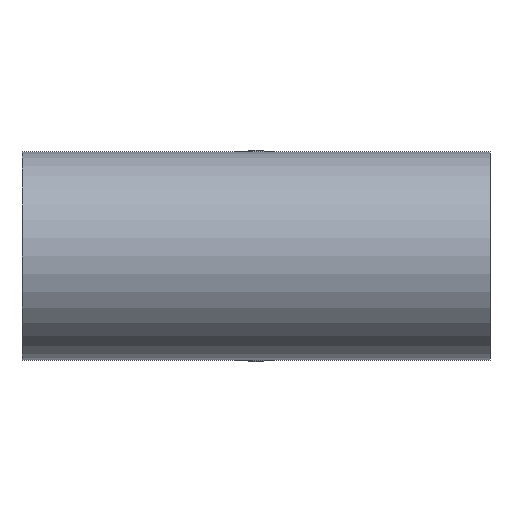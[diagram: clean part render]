
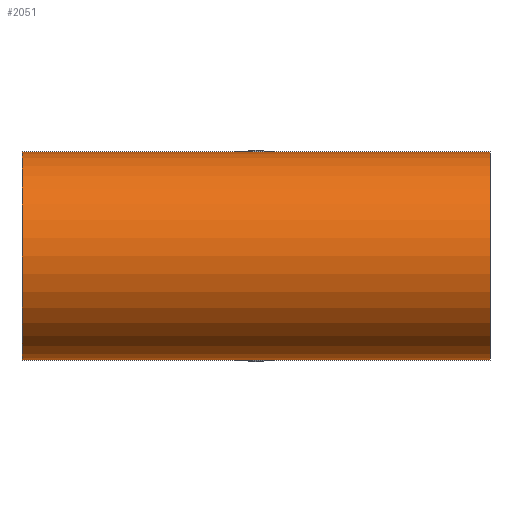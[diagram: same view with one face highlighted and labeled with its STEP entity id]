
A CAD part, front view. The second image highlights one B-rep face of the part: STEP entity #2051.
In plain terms, the highlighted cylindrical face has radius 38.1 mm (diameter 76.2 mm), a partial arc.
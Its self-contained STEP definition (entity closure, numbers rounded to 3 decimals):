
#30 = CARTESIAN_POINT ( 'NONE',  ( -85.7, 0., 38.1 ) ) ;
#140 = ORIENTED_EDGE ( 'NONE', *, *, #1937, .T. ) ;
#238 = CARTESIAN_POINT ( 'NONE',  ( -85.7, 0., 38.1 ) ) ;
#423 = CARTESIAN_POINT ( 'NONE',  ( 85.7, 0., 38.1 ) ) ;
#534 = VECTOR ( 'NONE', #832, 1000. ) ;
#537 = VECTOR ( 'NONE', #1488, 1000. ) ;
#599 = AXIS2_PLACEMENT_3D ( 'NONE', #1288, #995, #989 ) ;
#604 = ORIENTED_EDGE ( 'NONE', *, *, #1892, .F. ) ;
#618 = DIRECTION ( 'NONE',  ( 0., 0., -1. ) ) ;
#628 = CARTESIAN_POINT ( 'NONE',  ( 85.7, 0., -38.1 ) ) ;
#660 = LINE ( 'NONE', #762, #534 ) ;
#696 = EDGE_CURVE ( 'NONE', #910, #1302, #1715, .T. ) ;
#762 = CARTESIAN_POINT ( 'NONE',  ( -85.7, 0., -38.1 ) ) ;
#775 = DIRECTION ( 'NONE',  ( 1., 0., 0. ) ) ;
#832 = DIRECTION ( 'NONE',  ( 1., 0., 0. ) ) ;
#910 = VERTEX_POINT ( 'NONE', #238 ) ;
#914 = CARTESIAN_POINT ( 'NONE',  ( -85.7, 0., 0. ) ) ;
#966 = LINE ( 'NONE', #30, #537 ) ;
#989 = DIRECTION ( 'NONE',  ( 0., 0., -1. ) ) ;
#995 = DIRECTION ( 'NONE',  ( -1., 0., 0. ) ) ;
#1113 = ORIENTED_EDGE ( 'NONE', *, *, #1152, .T. ) ;
#1152 = EDGE_CURVE ( 'NONE', #1302, #1686, #660, .T. ) ;
#1248 = CARTESIAN_POINT ( 'NONE',  ( -85.7, 0., -38.1 ) ) ;
#1288 = CARTESIAN_POINT ( 'NONE',  ( 85.7, 0., 0. ) ) ;
#1302 = VERTEX_POINT ( 'NONE', #1248 ) ;
#1344 = ORIENTED_EDGE ( 'NONE', *, *, #696, .T. ) ;
#1353 = CIRCLE ( 'NONE', #599, 38.1 ) ;
#1388 = VERTEX_POINT ( 'NONE', #423 ) ;
#1422 = EDGE_LOOP ( 'NONE', ( #604, #1344, #1113, #140 ) ) ;
#1431 = CYLINDRICAL_SURFACE ( 'NONE', #1623, 38.1 ) ;
#1441 = AXIS2_PLACEMENT_3D ( 'NONE', #1596, #1603, #1665 ) ;
#1488 = DIRECTION ( 'NONE',  ( 1., 0., 0. ) ) ;
#1596 = CARTESIAN_POINT ( 'NONE',  ( -85.7, 0., 0. ) ) ;
#1603 = DIRECTION ( 'NONE',  ( 1., 0., 0. ) ) ;
#1623 = AXIS2_PLACEMENT_3D ( 'NONE', #914, #775, #618 ) ;
#1634 = FACE_OUTER_BOUND ( 'NONE', #1422, .T. ) ;
#1665 = DIRECTION ( 'NONE',  ( 0., 0., -1. ) ) ;
#1686 = VERTEX_POINT ( 'NONE', #628 ) ;
#1715 = CIRCLE ( 'NONE', #1441, 38.1 ) ;
#1892 = EDGE_CURVE ( 'NONE', #910, #1388, #966, .T. ) ;
#1937 = EDGE_CURVE ( 'NONE', #1686, #1388, #1353, .T. ) ;
#2051 = ADVANCED_FACE ( 'NONE', ( #1634 ), #1431, .T. ) ;
